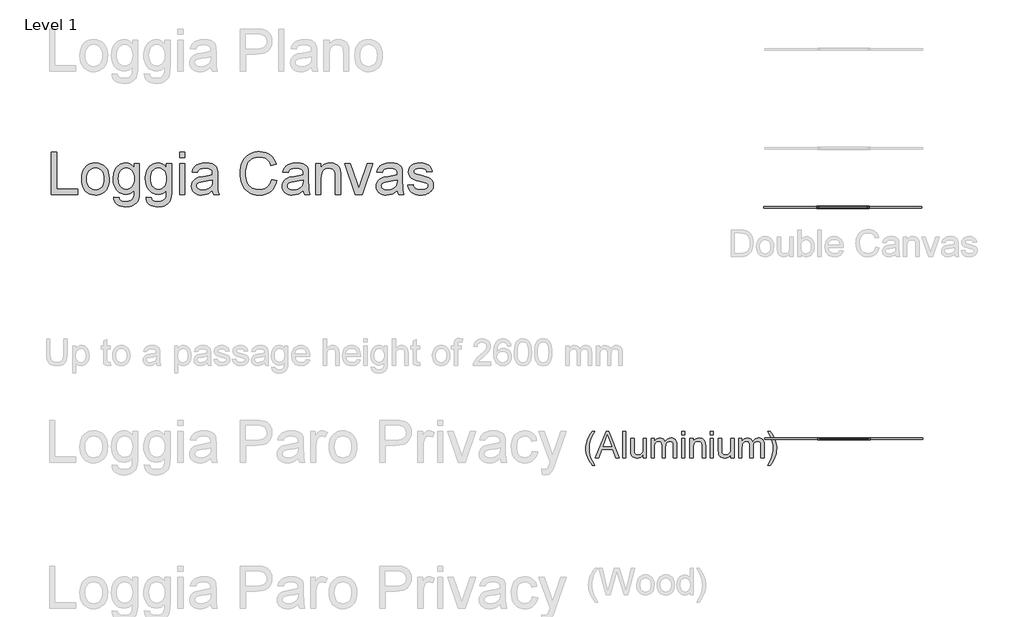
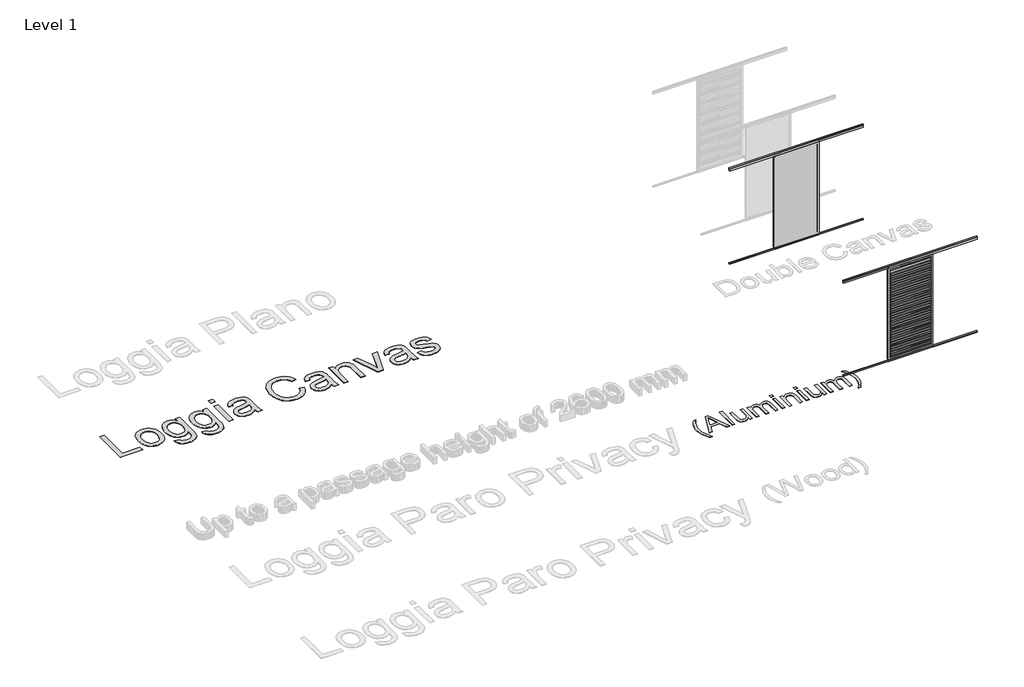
# One storey, part 13 of 47: 4 proxies.
"""IFC4 building model written with IfcOpenShell, lengths in millimetres."""

from ifc_helpers import new_model, si_unit, origin, origin_with_axes, place, context, project, spatial, polyline, outline, extrude, transform, mapped, element, save
from components import generic_models_4c16ce6f, generic_models_3da02b87

model = new_model("IFC4")

# Units and contexts
model_context = context("Model", 3, world=origin())
ifc_project = project(units=[si_unit("LENGTHUNIT", "METRE", prefix="MILLI")], contexts=[model_context])

# Site, building, storey
site = spatial("IfcSite", under=ifc_project)
building = spatial("IfcBuilding", under=site)
storey = spatial("IfcBuildingStorey", under=building, Name="Level 1", Elevation=0.0)

# Proxies
placement = place(None, origin())
generic_models_shape = generic_models_4c16ce6f(model_context)
element("IfcBuildingElementProxy", 1, Name="Renson_Algarve_Loggia_Paro_Privacy_Aluminium : Renson_Algarve_Loggia_Paro_Privacy_Aluminium", ObjectType="Renson_Algarve_Loggia_Paro_Privacy_Aluminium : Renson_Algarve_Loggia_Paro_Privacy_Aluminium", at=placement, inside=storey, context=model_context, shape_type="MappedRepresentation", body=[
    mapped(generic_models_shape, transform((188018.5499001, -29457.0157165, 0.0), x_axis=(1.0, 0.0, 0.0), y_axis=(0.0, 1.0, 0.0), z_axis=(0.0, 0.0, 1.0))),
])
generic_models_2_shape = generic_models_3da02b87(model_context)
element("IfcBuildingElementProxy", 2, Name="Renson_Algarve_Loggia_Canvas_Double : Renson_Algarve_Loggia_Canvas_Double", ObjectType="Renson_Algarve_Loggia_Canvas_Double : Renson_Algarve_Loggia_Canvas_Double", at=placement, inside=storey, context=model_context, shape_type="MappedRepresentation", body=[
    mapped(generic_models_2_shape, transform((188000.726301, -25054.770862, 0.0), x_axis=(1.0, 0.0, 0.0), y_axis=(0.0, 1.0, 0.0), z_axis=(0.0, 0.0, 1.0))),
])
element("IfcBuildingElementProxy", 3, Name="500mm Arial", ObjectType="500mm Arial", at=placement, inside=storey, context=model_context, shape_type="SweptSolid", body=[
    extrude(outline(polyline([(183241.3778916, -29959.1094937), (183216.032355, -29926.3143467), (183192.7254977, -29890.8367268), (183152.2278214, -29811.8340683), (183136.2939325, -29769.2670558), (183124.9125833, -29725.9336225), (183118.0837737, -29681.8337683), (183115.8075039, -29636.9674933), (183117.5089581, -29597.5351419), (183122.6133208, -29558.9458535), (183131.120592, -29521.1996279), (183143.0307715, -29484.2964653), (183161.1336314, -29441.9747074), (183183.5591047, -29399.7449201), (183210.3071914, -29357.6071032), (183241.3778916, -29315.5612568), (183288.466787, -29315.5612568), (183229.7282951, -29415.0120229), (183209.6787263, -29462.2235456), (183194.4116235, -29511.3971056), (183182.5474292, -29574.2129563), (183178.5926977, -29637.3353753), (183180.3094804, -29677.5839648), (183185.4598283, -29717.8248901), (183194.0437415, -29758.0581513), (183206.0612201, -29798.2837482), (183240.3968729, -29878.7119494), (183288.466787, -29959.1094937), (183241.3778916, -29959.1094937)])), origin_with_axes(), (0.0, 0.0, 1.0), 5.0),
    extrude(outline(polyline([(183300.6068928, -29817.8428076), (183501.1025802, -29315.5612568), (183554.5680968, -29315.5612568), (183755.0637842, -29817.8428076), (183688.7223977, -29817.8428076), (183631.2101791, -29660.879823), (183424.3378705, -29660.879823), (183366.9482793, -29817.8428076), (183300.6068928, -29817.8428076)]), holes=[polyline([(183447.3918089, -29598.0946291), (183608.2788681, -29598.0946291), (183563.0293827, -29474.6089061), (183527.8353385, -29378.3464507), (183496.5653689, -29463.8177009), (183447.3918089, -29598.0946291)])]), origin_with_axes(), (0.0, 0.0, 1.0), 5.0),
    extrude(outline(polyline([(183814.2927854, -29817.8428076), (183814.2927854, -29315.5612568), (183877.0779793, -29315.5612568), (183877.0779793, -29817.8428076), (183814.2927854, -29817.8428076)])), origin_with_axes(), (0.0, 0.0, 1.0), 5.0),
    extrude(outline(polyline([(184206.7002469, -29817.8428076), (184206.7002469, -29754.4444771), (184183.9835337, -29785.614812), (184157.5266869, -29807.8793369), (184127.3297065, -29821.2380518), (184093.3925924, -29825.6909568), (184062.8124016, -29822.5639599), (184034.3475322, -29813.182969), (184010.4658593, -29799.0808258), (183993.6352581, -29781.7903721), (183982.3075583, -29760.7904415), (183974.93459, -29735.559868), (183971.25577, -29677.1892581), (183971.25577, -29448.9797937), (184034.0409639, -29448.9797937), (184034.0409639, -29647.6360711), (184037.8424111, -29711.6475383), (184046.9934758, -29733.0000224), (184062.6744458, -29749.2328155), (184083.842989, -29759.4875261), (184109.4567729, -29762.905763), (184136.5420848, -29759.410884), (184161.8799572, -29748.9262472), (184182.7725888, -29732.4175426), (184196.5221784, -29710.8504606), (184204.1557298, -29681.3126021), (184206.7002469, -29640.8915679), (184206.7002469, -29448.9797937), (184269.4854408, -29448.9797937), (184269.4854408, -29817.8428076), (184206.7002469, -29817.8428076)])), origin_with_axes(), (0.0, 0.0, 1.0), 5.0),
    extrude(outline(polyline([(184355.8150823, -29817.8428076), (184355.8150823, -29448.9797937), (184418.6002762, -29448.9797937), (184418.6002762, -29509.680323), (184437.4848852, -29481.7979334), (184461.7650969, -29459.9549399), (184490.6131767, -29445.8374684), (184523.2013901, -29441.1316445), (184558.1195228, -29445.9294389), (184586.1092113, -29460.3228219), (184607.0171714, -29483.3614319), (184620.6901188, -29514.0949069), (184643.5754446, -29482.1734796), (184669.6797379, -29459.3724601), (184699.0029986, -29445.6918484), (184731.5452267, -29441.1316445), (184756.6799976, -29443.0285361), (184778.741421, -29448.7192107), (184797.7294969, -29458.2036684), (184813.6442253, -29471.4819091), (184826.2250231, -29488.7072171), (184835.2113073, -29510.0328765), (184840.6030778, -29535.4588873), (184842.4003346, -29564.9852496), (184842.4003346, -29817.8428076), (184779.6151408, -29817.8428076), (184779.6151408, -29591.9632625), (184778.1589412, -29560.6473077), (184773.7903425, -29539.5400782), (184765.6049681, -29525.0853815), (184752.6984414, -29513.7270249), (184736.0977664, -29506.369385), (184716.8299469, -29503.9168384), (184699.0374875, -29505.4880011), (184682.8161908, -29510.2014891), (184668.1660567, -29518.0573026), (184655.0870854, -29529.0554414), (184644.3303691, -29543.5178023), (184636.6470004, -29561.7662821), (184632.0369791, -29583.8008808), (184630.5003054, -29609.6215983), (184630.5003054, -29817.8428076), (184567.7151115, -29817.8428076), (184567.7151115, -29584.9735046), (184564.0822768, -29549.4728921), (184553.1837727, -29524.1503481), (184544.7569758, -29515.2981876), (184534.0079237, -29508.9752158), (184505.5430543, -29503.9168384), (184481.3548132, -29507.28909), (184459.0672956, -29517.4058449), (184440.6731959, -29534.0218483), (184428.165208, -29556.8918457), (184420.9915091, -29588.6216678), (184418.6002762, -29631.8171454), (184418.6002762, -29817.8428076), (184355.8150823, -29817.8428076)])), origin_with_axes(), (0.0, 0.0, 1.0), 5.0),
    extrude(outline(polyline([(184936.5781254, -29817.8428076), (184936.5781254, -29448.9797937), (184999.3633192, -29448.9797937), (184999.3633192, -29817.8428076), (184936.5781254, -29817.8428076)])), origin_with_axes(), (0.0, 0.0, 1.0), 5.0),
    extrude(outline(polyline([(184936.5781254, -29378.3464507), (184936.5781254, -29315.5612568), (184999.3633192, -29315.5612568), (184999.3633192, -29378.3464507), (184936.5781254, -29378.3464507)])), origin_with_axes(), (0.0, 0.0, 1.0), 5.0),
    extrude(outline(polyline([(185093.54111, -29817.8428076), (185093.54111, -29448.9797937), (185156.3263038, -29448.9797937), (185156.3263038, -29500.4832731), (185178.1386404, -29474.5169356), (185204.3349042, -29455.9695517), (185234.915095, -29444.8411213), (185269.879213, -29441.1316445), (185300.8272858, -29444.1206857), (185329.1695279, -29453.0878094), (185352.8059461, -29466.914041), (185369.6365474, -29484.4804063), (185381.0562176, -29505.7409199), (185388.4598428, -29530.6495967), (185391.7707807, -29591.3501259), (185391.7707807, -29817.8428076), (185328.9855869, -29817.8428076), (185328.9855869, -29599.8114118), (185327.1768337, -29567.3458257), (185321.7505743, -29544.2612305), (185311.7411184, -29527.7218691), (185296.1827756, -29514.8919846), (185276.2405058, -29506.6606249), (185253.0792685, -29503.9168384), (185234.0145506, -29505.4573442), (185216.3063974, -29510.0788618), (185199.9548092, -29517.7813911), (185184.9597858, -29528.564932), (185172.4326374, -29543.6557581), (185163.4846743, -29564.2801424), (185158.1158964, -29590.4380851), (185156.3263038, -29622.1295861), (185156.3263038, -29817.8428076), (185093.54111, -29817.8428076)])), origin_with_axes(), (0.0, 0.0, 1.0), 5.0),
    extrude(outline(polyline([(185478.1004223, -29378.3464507), (185478.1004223, -29315.5612568), (185540.8856161, -29315.5612568), (185540.8856161, -29378.3464507), (185478.1004223, -29378.3464507)])), origin_with_axes(), (0.0, 0.0, 1.0), 5.0),
    extrude(outline(polyline([(185478.1004223, -29817.8428076), (185478.1004223, -29448.9797937), (185540.8856161, -29448.9797937), (185540.8856161, -29817.8428076), (185478.1004223, -29817.8428076)])), origin_with_axes(), (0.0, 0.0, 1.0), 5.0),
    extrude(outline(polyline([(185870.5078838, -29817.8428076), (185870.5078838, -29754.4444771), (185847.7911706, -29785.614812), (185821.3343238, -29807.8793369), (185791.1373433, -29821.2380518), (185757.2002293, -29825.6909568), (185726.6200384, -29822.5639599), (185698.155169, -29813.182969), (185674.2734962, -29799.0808258), (185657.4428949, -29781.7903721), (185646.1151951, -29760.7904415), (185638.7422268, -29735.559868), (185635.0634069, -29677.1892581), (185635.0634069, -29448.9797937), (185697.8486007, -29448.9797937), (185697.8486007, -29647.6360711), (185701.650048, -29711.6475383), (185710.8011126, -29733.0000224), (185726.4820827, -29749.2328155), (185747.6506258, -29759.4875261), (185773.2644097, -29762.905763), (185800.3497216, -29759.410884), (185825.687594, -29748.9262472), (185846.5802257, -29732.4175426), (185860.3298153, -29710.8504606), (185867.9633667, -29681.3126021), (185870.5078838, -29640.8915679), (185870.5078838, -29448.9797937), (185933.2930776, -29448.9797937), (185933.2930776, -29817.8428076), (185870.5078838, -29817.8428076)])), origin_with_axes(), (0.0, 0.0, 1.0), 5.0),
    extrude(outline(polyline([(186019.6227192, -29817.8428076), (186019.6227192, -29448.9797937), (186082.407913, -29448.9797937), (186082.407913, -29509.680323), (186101.2925221, -29481.7979334), (186125.5727338, -29459.9549399), (186154.4208136, -29445.8374684), (186187.009027, -29441.1316445), (186221.9271597, -29445.9294389), (186249.9168481, -29460.3228219), (186270.8248082, -29483.3614319), (186284.4977557, -29514.0949069), (186307.3830815, -29482.1734796), (186333.4873747, -29459.3724601), (186362.8106354, -29445.6918484), (186395.3528636, -29441.1316445), (186420.4876345, -29443.0285361), (186442.5490579, -29448.7192107), (186461.5371338, -29458.2036684), (186477.4518622, -29471.4819091), (186490.03266, -29488.7072171), (186499.0189441, -29510.0328765), (186504.4107146, -29535.4588873), (186506.2079715, -29564.9852496), (186506.2079715, -29817.8428076), (186443.4227776, -29817.8428076), (186443.4227776, -29591.9632625), (186441.966578, -29560.6473077), (186437.5979794, -29539.5400782), (186429.412605, -29525.0853815), (186416.5060783, -29513.7270249), (186399.9054033, -29506.369385), (186380.6375838, -29503.9168384), (186362.8451244, -29505.4880011), (186346.6238276, -29510.2014891), (186331.9736936, -29518.0573026), (186318.8947222, -29529.0554414), (186308.138006, -29543.5178023), (186300.4546372, -29561.7662821), (186295.844616, -29583.8008808), (186294.3079422, -29609.6215983), (186294.3079422, -29817.8428076), (186231.5227484, -29817.8428076), (186231.5227484, -29584.9735046), (186227.8899137, -29549.4728921), (186216.9914096, -29524.1503481), (186208.5646126, -29515.2981876), (186197.8155606, -29508.9752158), (186169.3506912, -29503.9168384), (186145.16245, -29507.28909), (186122.8749325, -29517.4058449), (186104.4808327, -29534.0218483), (186091.9728449, -29556.8918457), (186084.799146, -29588.6216678), (186082.407913, -29631.8171454), (186082.407913, -29817.8428076), (186019.6227192, -29817.8428076)])), origin_with_axes(), (0.0, 0.0, 1.0), 5.0),
    extrude(outline(polyline([(186616.0820607, -29959.1094937), (186568.9931653, -29959.1094937), (186617.0630793, -29878.7119494), (186651.3987322, -29798.2837482), (186663.4162107, -29758.0581513), (186672.0001239, -29717.8248901), (186677.1504719, -29677.5839648), (186678.8672545, -29637.3353753), (186674.9125231, -29574.6728088), (186663.0483287, -29512.5007516), (186648.0571374, -29463.2352211), (186628.0995392, -29415.9930415), (186568.9931653, -29315.5612568), (186616.0820607, -29315.5612568), (186647.1527609, -29357.6071032), (186673.9008476, -29399.7449201), (186696.3263209, -29441.9747074), (186714.4291807, -29484.2964653), (186726.3393603, -29521.1996279), (186734.8466315, -29558.9458535), (186739.9509941, -29597.5351419), (186741.6524484, -29636.9674933), (186739.3646822, -29681.8337683), (186732.5013837, -29725.9336225), (186721.0625529, -29769.2670558), (186705.0481898, -29811.8340683), (186664.5045283, -29890.8367268), (186616.0820607, -29959.1094937)])), origin_with_axes(), (0.0, 0.0, 1.0), 5.0),
])
element("IfcBuildingElementProxy", 4, Name="800mm Arial", ObjectType="800mm Arial", at=placement, inside=storey, context=model_context, shape_type="SweptSolid", body=[
    extrude(outline(polyline([(172965.2163189, -24810.5705655), (172965.2163189, -24011.1818671), (173065.1399062, -24011.1818671), (173065.1399062, -24710.6469782), (173464.8342553, -24710.6469782), (173464.8342553, -24810.5705655), (172965.2163189, -24810.5705655)])), origin_with_axes(), (0.0, 0.0, 1.0), 5.0),
    extrude(outline(polyline([(173539.7769458, -24517.0450278), (173545.1805285, -24441.0167417), (173551.9350068, -24406.9455064), (173561.3912764, -24375.5028761), (173573.5493374, -24346.6888509), (173588.4091898, -24320.5034309), (173605.9708334, -24296.9466159), (173626.2342684, -24276.0184061), (173664.3154988, -24247.5855592), (173706.3487852, -24227.2763828), (173752.3341275, -24215.090877), (173802.2715257, -24211.0290417), (173857.3990468, -24215.9752105), (173907.2449622, -24230.8137168), (173951.8092721, -24255.5445608), (173991.0919763, -24290.1677422), (174023.15364, -24333.5122817), (174046.0548284, -24384.4071997), (174059.7955414, -24442.8524961), (174064.3757791, -24508.848171), (174062.3509603, -24562.335101), (174056.2765039, -24609.7963654), (174046.15241, -24651.2319643), (174031.9786785, -24686.6418977), (174013.9321761, -24717.2276392), (173992.1897696, -24744.1906629), (173966.7514589, -24767.5309686), (173937.617244, -24787.2485563), (173905.9215114, -24802.9165065), (173872.7986475, -24814.1078995), (173838.2486522, -24820.8227353), (173802.2715257, -24823.0610139), (173746.3389562, -24818.1331417), (173696.029528, -24803.349525), (173651.3432411, -24778.7101639), (173612.2800956, -24744.2150583), (173580.5599675, -24700.449698), (173557.9027332, -24647.9995729), (173544.3083927, -24586.8646828), (173539.7769458, -24517.0450278)]), holes=[polyline([(173639.7005331, -24516.8498646), (173642.5913888, -24565.3174395), (173651.263956, -24607.2836385), (173665.7182347, -24642.7484615), (173685.9542249, -24671.7119085), (173710.5691906, -24694.2105727), (173738.160396, -24710.2810471), (173768.727841, -24719.9233317), (173802.2715257, -24723.1374266), (173835.6444425, -24719.9050352), (173866.0899105, -24710.2078609), (173893.6079297, -24694.0459037), (173918.1985, -24671.4191636), (173938.4344902, -24642.1690706), (173952.8887688, -24606.1370544), (173961.5613361, -24563.323115), (173964.4521918, -24513.7272525), (173961.5430395, -24466.7965881), (173952.8155826, -24425.9281825), (173938.2698212, -24391.1220355), (173917.9057551, -24362.3781471), (173893.223702, -24339.8794829), (173865.7239794, -24323.8090085), (173835.4065873, -24314.1667239), (173802.2715257, -24310.952629), (173768.727841, -24314.1545262), (173738.160396, -24323.7602177), (173710.5691906, -24339.7697036), (173685.9542249, -24362.1829838), (173665.7182347, -24391.0610469), (173651.263956, -24426.4648814), (173642.5913888, -24468.3944873), (173639.7005331, -24516.8498646)])]), origin_with_axes(), (0.0, 0.0, 1.0), 5.0),
    extrude(outline(polyline([(174151.808918, -24860.5323591), (174251.7325053, -24873.0228075), (174255.9529107, -24889.8556384), (174262.7592292, -24904.2489286), (174272.151461, -24916.202678), (174284.1296058, -24925.7168868), (174303.5117567, -24935.4506542), (174326.1384968, -24942.4033452), (174381.1257443, -24947.965498), (174412.3274699, -24946.3919943), (174439.7723028, -24941.671483), (174463.4602431, -24933.8039642), (174483.3912906, -24922.7894379), (174499.9801674, -24908.9328467), (174513.6415954, -24892.5391332), (174524.3755745, -24873.6082973), (174532.1821047, -24852.1403391), (174537.5978851, -24809.1556319), (174539.0128187, -24735.627875), (174505.7618789, -24768.4153021), (174468.6564648, -24791.8348929), (174427.6965763, -24805.8866473), (174382.8822136, -24810.5705655), (174328.0962282, -24805.118192), (174279.8604096, -24788.7610716), (174258.1988128, -24776.4932313), (174238.1747578, -24761.4992042), (174203.0392728, -24723.3325899), (174175.1614214, -24677.5424108), (174155.2486704, -24627.4098493), (174143.3010198, -24572.9349054), (174139.3184696, -24514.117579), (174141.1054331, -24472.9686261), (174146.4663238, -24433.4419678), (174155.4011417, -24395.5376041), (174167.9098866, -24359.255535), (174183.8034943, -24325.8033331), (174202.8929003, -24296.388571), (174225.1781047, -24271.0112488), (174250.6591073, -24249.6713665), (174278.9272853, -24232.7653494), (174309.5740154, -24220.6896229), (174342.5992977, -24213.444187), (174378.0031322, -24211.0290417), (174424.7325344, -24216.4936129), (174467.1439495, -24232.8873264), (174505.2373777, -24260.2101823), (174539.0128187, -24298.4621806), (174539.0128187, -24223.5194901), (174638.936406, -24223.5194901), (174638.936406, -24730.3584671), (174637.2287275, -24793.8658105), (174632.105692, -24847.3832347), (174623.5672996, -24890.9107398), (174611.6135501, -24924.4483256), (174595.9577976, -24951.4967332), (174576.3133961, -24975.5567034), (174552.6803455, -24996.6282362), (174525.0586459, -25014.7113317), (174493.7288444, -25029.2265989), (174458.9714882, -25039.5946469), (174420.7865773, -25045.8154757), (174379.1741117, -25047.8890853), (174330.2186286, -25044.9677353), (174286.2032154, -25036.2036853), (174247.1278722, -25021.5969354), (174212.9925989, -25001.1474854), (174185.41969, -24974.83094), (174166.0314403, -24942.6229039), (174154.8278496, -24904.5233769), (174151.808918, -24860.5323591)]), holes=[polyline([(174239.2420568, -24507.286865), (174241.9072551, -24556.6936631), (174249.9028497, -24598.9404093), (174263.2288408, -24634.0271035), (174281.8852284, -24661.9537457), (174304.5668581, -24683.2570349), (174329.9685757, -24698.4736701), (174358.0903812, -24707.6036512), (174388.9322745, -24710.6469782), (174419.4692253, -24707.6219477), (174447.456856, -24698.5468563), (174472.8951668, -24683.4217039), (174495.7841574, -24662.2464906), (174514.6966967, -24634.5942967), (174528.2056534, -24600.0382026), (174536.3110274, -24558.5782083), (174539.0128187, -24510.2143138), (174536.2317423, -24463.8691393), (174527.8885131, -24423.5862234), (174513.9831311, -24389.3655661), (174494.5155963, -24361.2071676), (174471.1325986, -24339.2208069), (174445.4808281, -24323.5162637), (174417.5602847, -24314.0935377), (174387.3709685, -24310.952629), (174357.6878569, -24314.0447469), (174330.3101114, -24323.3211004), (174305.2377318, -24338.7816896), (174282.4707181, -24360.4265145), (174263.5581788, -24388.1579935), (174250.0492222, -24421.8785449), (174241.9438482, -24461.5881687), (174239.2420568, -24507.286865)])]), origin_with_axes(), (0.0, 0.0, 1.0), 5.0),
    extrude(outline(polyline([(174763.8408901, -24860.5323591), (174863.7644774, -24873.0228075), (174867.9848828, -24889.8556384), (174874.7912014, -24904.2489286), (174884.1834331, -24916.202678), (174896.161578, -24925.7168868), (174915.5437289, -24935.4506542), (174938.1704689, -24942.4033452), (174993.1577164, -24947.965498), (175024.3594421, -24946.3919943), (175051.804275, -24941.671483), (175075.4922152, -24933.8039642), (175095.4232628, -24922.7894379), (175112.0121396, -24908.9328467), (175125.6735676, -24892.5391332), (175136.4075467, -24873.6082973), (175144.2140769, -24852.1403391), (175149.6298573, -24809.1556319), (175151.0447909, -24735.627875), (175117.7938511, -24768.4153021), (175080.6884369, -24791.8348929), (175039.7285485, -24805.8866473), (174994.9141857, -24810.5705655), (174940.1282004, -24805.118192), (174891.8923818, -24788.7610716), (174870.230785, -24776.4932313), (174850.20673, -24761.4992042), (174815.0712449, -24723.3325899), (174787.1933935, -24677.5424108), (174767.2806425, -24627.4098493), (174755.3329919, -24572.9349054), (174751.3504417, -24514.117579), (174753.1374053, -24472.9686261), (174758.498296, -24433.4419678), (174767.4331138, -24395.5376041), (174779.9418588, -24359.255535), (174795.8354665, -24325.8033331), (174814.9248725, -24296.388571), (174837.2100768, -24271.0112488), (174862.6910795, -24249.6713665), (174890.9592574, -24232.7653494), (174921.6059875, -24220.6896229), (174954.6312698, -24213.444187), (174990.0351043, -24211.0290417), (175036.7645065, -24216.4936129), (175079.1759217, -24232.8873264), (175117.2693498, -24260.2101823), (175151.0447909, -24298.4621806), (175151.0447909, -24223.5194901), (175250.9683782, -24223.5194901), (175250.9683782, -24730.3584671), (175249.2606997, -24793.8658105), (175244.1376642, -24847.3832347), (175235.5992717, -24890.9107398), (175223.6455223, -24924.4483256), (175207.9897698, -24951.4967332), (175188.3453683, -24975.5567034), (175164.7123177, -24996.6282362), (175137.0906181, -25014.7113317), (175105.7608165, -25029.2265989), (175071.0034603, -25039.5946469), (175032.8185495, -25045.8154757), (174991.2060839, -25047.8890853), (174942.2506008, -25044.9677353), (174898.2351876, -25036.2036853), (174859.1598443, -25021.5969354), (174825.024571, -25001.1474854), (174797.4516622, -24974.83094), (174778.0634124, -24942.6229039), (174766.8598218, -24904.5233769), (174763.8408901, -24860.5323591)]), holes=[polyline([(174851.274029, -24507.286865), (174853.9392272, -24556.6936631), (174861.9348219, -24598.9404093), (174875.260813, -24634.0271035), (174893.9172005, -24661.9537457), (174916.5988303, -24683.2570349), (174942.0005478, -24698.4736701), (174970.1223533, -24707.6036512), (175000.9642467, -24710.6469782), (175031.5011975, -24707.6219477), (175059.4888282, -24698.5468563), (175084.9271389, -24683.4217039), (175107.8161296, -24662.2464906), (175126.7286689, -24634.5942967), (175140.2376256, -24600.0382026), (175148.3429996, -24558.5782083), (175151.0447909, -24510.2143138), (175148.2637145, -24463.8691393), (175139.9204853, -24423.5862234), (175126.0151033, -24389.3655661), (175106.5475684, -24361.2071676), (175083.1645708, -24339.2208069), (175057.5128002, -24323.5162637), (175029.5922569, -24314.0935377), (174999.4029406, -24310.952629), (174969.7198291, -24314.0447469), (174942.3420835, -24323.3211004), (174917.2697039, -24338.7816896), (174894.5026903, -24360.4265145), (174875.590151, -24388.1579935), (174862.0811943, -24421.8785449), (174853.9758203, -24461.5881687), (174851.274029, -24507.286865)])]), origin_with_axes(), (0.0, 0.0, 1.0), 5.0),
    extrude(outline(polyline([(175400.8537591, -24810.5705655), (175400.8537591, -24223.5194901), (175500.7773464, -24223.5194901), (175500.7773464, -24810.5705655), (175400.8537591, -24810.5705655)])), origin_with_axes(), (0.0, 0.0, 1.0), 5.0),
    extrude(outline(polyline([(175400.8537591, -24111.1054544), (175400.8537591, -24011.1818671), (175500.7773464, -24011.1818671), (175500.7773464, -24111.1054544), (175400.8537591, -24111.1054544)])), origin_with_axes(), (0.0, 0.0, 1.0), 5.0),
    extrude(outline(polyline([(176025.3761797, -24735.627875), (175977.6343681, -24776.5633681), (175953.2328622, -24791.7251135), (175928.4776229, -24803.349525), (175876.7837553, -24818.1331417), (175821.4305767, -24823.0610139), (175776.9394531, -24820.0969719), (175737.9250984, -24811.2048461), (175704.3875125, -24796.3846363), (175676.3266956, -24775.6363426), (175654.1695671, -24750.277317), (175638.3430468, -24721.6249114), (175628.8471346, -24689.6791258), (175625.6818305, -24654.4399603), (175630.4633303, -24613.0165592), (175644.8078297, -24575.3988415), (175666.9344639, -24543.1969042), (175695.0623682, -24518.0208441), (175728.1181448, -24498.9924266), (175765.0283956, -24485.233417), (175851.4857182, -24470.2058463), (175953.653683, -24454.3976225), (176024.7906899, -24435.8571131), (176025.3761797, -24413.6085019), (176023.6563035, -24389.3838627), (176018.4966749, -24369.0136978), (176009.8972939, -24352.4980072), (175997.8581605, -24339.836791), (175977.0488783, -24327.1999701), (175951.7020504, -24318.1736695), (175921.8176768, -24312.7578891), (175887.3957574, -24310.952629), (175827.8709642, -24315.7585242), (175804.8416999, -24321.7658932), (175786.3011906, -24330.1762098), (175771.0662589, -24341.6481499), (175757.9537276, -24356.8403897), (175746.9635967, -24375.752929), (175738.0958662, -24398.3857679), (175638.1722789, -24385.8953195), (175655.5174134, -24331.2496077), (175667.3918777, -24308.3179251), (175681.4009402, -24288.3136913), (175698.1483872, -24270.8343821), (175718.2380049, -24255.4774734), (175741.6697934, -24242.2429651), (175768.4437526, -24231.1308571), (175829.8469922, -24216.0544956), (175900.2765323, -24211.0290417), (175967.8274145, -24215.4690058), (176021.3753329, -24228.7888981), (176061.7497316, -24248.8175273), (176089.7800543, -24273.3837022), (176108.3693545, -24303.7559839), (176120.4206856, -24341.2029338), (176124.0799966, -24375.7468302), (176125.299767, -24428.6360726), (176125.299767, -24552.955067), (176126.5683282, -24661.2462789), (176130.3740117, -24726.5527836), (176137.887797, -24769.4643046), (176150.2806638, -24810.5705655), (176050.3570765, -24810.5705655), (176034.3536895, -24775.8315058), (176025.3761797, -24735.627875)]), holes=[polyline([(176025.3761797, -24535.7807004), (175958.2400195, -24552.418368), (175864.1713299, -24566.4213317), (175812.3310899, -24574.0814895), (175778.2019154, -24582.619882), (175755.8313272, -24593.6953968), (175739.2668458, -24608.9669216), (175729.0207748, -24627.2634769), (175725.6054178, -24647.4140831), (175727.4655676, -24662.9417597), (175733.046017, -24677.1276889), (175742.3467659, -24689.9718707), (175755.3678144, -24701.4743051), (175771.9871855, -24710.9519208), (175792.082902, -24717.7216462), (175842.7033717, -24723.1374266), (175896.3732672, -24717.1605519), (175920.8662559, -24709.6894585), (175943.7979385, -24699.2299277), (175982.2451, -24672.8097019), (176008.9824662, -24641.3640222), (176020.838634, -24608.9669216), (176024.7906899, -24564.0793726), (176025.3761797, -24535.7807004)])]), origin_with_axes(), (0.0, 0.0, 1.0), 5.0),
    extrude(outline(polyline([(177149.5165367, -24526.4128641), (177249.440124, -24552.174414), (177229.6676466, -24614.3156146), (177203.3328047, -24668.6136918), (177170.4355983, -24715.0686457), (177130.9760274, -24753.6804762), (177085.8445243, -24784.0344615), (177035.9315215, -24805.7158795), (176981.2370189, -24818.7247303), (176921.7610165, -24823.0610139), (176860.8273885, -24819.7798316), (176805.8584376, -24809.9362849), (176756.8541637, -24793.5303737), (176713.8145668, -24770.5620979), (176676.1480583, -24741.3729934), (176643.2630496, -24706.3045957), (176615.1595406, -24665.356905), (176591.8375315, -24618.5299212), (176573.5226796, -24567.848463), (176560.4406426, -24515.3373493), (176552.5914204, -24460.9965801), (176549.975013, -24404.8261554), (176552.9329561, -24344.5573022), (176561.8067854, -24288.2649005), (176576.5965009, -24235.94895), (176597.3021027, -24187.609451), (176623.4600779, -24144.0453528), (176654.6069138, -24106.0556052), (176690.7426105, -24073.6402081), (176731.867168, -24046.7991614), (176776.5839491, -24025.752024), (176823.4963169, -24010.7183544), (176872.6042713, -24001.6981527), (176923.9078123, -23998.6914187), (176981.0601522, -24002.5824862), (177033.4675854, -24014.2556884), (177081.1301119, -24033.7110256), (177124.0477318, -24060.9484975), (177161.5129782, -24095.2484399), (177192.8183843, -24135.891188), (177217.9639501, -24182.876742), (177236.9496756, -24236.2051018), (177137.0260883, -24260.0150191), (177121.2910508, -24220.7201172), (177102.3846103, -24187.1459382), (177080.3067669, -24159.2924822), (177055.0575206, -24137.1597492), (177026.490499, -24120.296424), (176994.4593295, -24108.2511918), (176958.9640122, -24101.0240525), (176920.0045472, -24098.615006), (176875.1779867, -24101.2863031), (176834.1815052, -24109.3001943), (176797.0151025, -24122.6566797), (176763.6787788, -24141.3557592), (176734.5933547, -24164.5557913), (176710.1796511, -24191.4151345), (176690.437668, -24221.9337887), (176675.3674052, -24256.111754), (176664.2248031, -24292.399922), (176656.2658015, -24329.2491843), (176651.4904006, -24366.659541), (176649.8986003, -24404.6309921), (176651.7831455, -24452.3484083), (176657.4367811, -24496.9432124), (176666.859507, -24538.4154044), (176680.0513234, -24576.7649843), (176697.22569, -24611.2295956), (176718.5960665, -24641.0468819), (176744.1624531, -24666.2168431), (176773.9248497, -24686.7394793), (176806.4378285, -24702.6635812), (176840.2559615, -24714.0379398), (176875.3792488, -24720.8625549), (176911.8076904, -24723.1374266), (176955.2498115, -24720.0392099), (176995.2155871, -24710.7445598), (177031.7050172, -24695.2534763), (177064.7181018, -24673.5659595), (177093.4741879, -24645.7795908), (177117.1926224, -24611.9919521), (177135.8734054, -24572.2030432), (177149.5165367, -24526.4128641)])), origin_with_axes(), (0.0, 0.0, 1.0), 5.0),
    extrude(outline(polyline([(177749.0580605, -24735.627875), (177701.3162489, -24776.5633681), (177676.914743, -24791.7251135), (177652.1595037, -24803.349525), (177600.4656361, -24818.1331417), (177545.1124575, -24823.0610139), (177500.6213339, -24820.0969719), (177461.6069792, -24811.2048461), (177428.0693933, -24796.3846363), (177400.0085764, -24775.6363426), (177377.8514479, -24750.277317), (177362.0249276, -24721.6249114), (177352.5290154, -24689.6791258), (177349.3637113, -24654.4399603), (177354.1452111, -24613.0165592), (177368.4897105, -24575.3988415), (177390.6163447, -24543.1969042), (177418.744249, -24518.0208441), (177451.8000256, -24498.9924266), (177488.7102764, -24485.233417), (177575.167599, -24470.2058463), (177677.3355638, -24454.3976225), (177748.4725707, -24435.8571131), (177749.0580605, -24413.6085019), (177747.3381843, -24389.3838627), (177742.1785557, -24369.0136978), (177733.5791747, -24352.4980072), (177721.5400413, -24339.836791), (177700.7307591, -24327.1999701), (177675.3839312, -24318.1736695), (177645.4995576, -24312.7578891), (177611.0776382, -24310.952629), (177551.552845, -24315.7585242), (177528.5235807, -24321.7658932), (177509.9830714, -24330.1762098), (177494.7481397, -24341.6481499), (177481.6356084, -24356.8403897), (177470.6454775, -24375.752929), (177461.777747, -24398.3857679), (177361.8541597, -24385.8953195), (177379.1992942, -24331.2496077), (177391.0737585, -24308.3179251), (177405.082821, -24288.3136913), (177421.830268, -24270.8343821), (177441.9198857, -24255.4774734), (177465.3516742, -24242.2429651), (177492.1256334, -24231.1308571), (177553.528873, -24216.0544956), (177623.9584131, -24211.0290417), (177691.5092953, -24215.4690058), (177745.0572137, -24228.7888981), (177785.4316124, -24248.8175273), (177813.4619351, -24273.3837022), (177832.0512353, -24303.7559839), (177844.1025664, -24341.2029338), (177847.7618774, -24375.7468302), (177848.9816478, -24428.6360726), (177848.9816478, -24552.955067), (177850.250209, -24661.2462789), (177854.0558925, -24726.5527836), (177861.5696778, -24769.4643046), (177873.9625446, -24810.5705655), (177774.0389573, -24810.5705655), (177758.0355703, -24775.8315058), (177749.0580605, -24735.627875)]), holes=[polyline([(177749.0580605, -24535.7807004), (177681.9219003, -24552.418368), (177587.8532107, -24566.4213317), (177536.0129707, -24574.0814895), (177501.8837962, -24582.619882), (177479.513208, -24593.6953968), (177462.9487266, -24608.9669216), (177452.7026556, -24627.2634769), (177449.2872986, -24647.4140831), (177451.1474484, -24662.9417597), (177456.7278978, -24677.1276889), (177466.0286467, -24689.9718707), (177479.0496952, -24701.4743051), (177495.6690663, -24710.9519208), (177515.7647828, -24717.7216462), (177566.3852525, -24723.1374266), (177620.055148, -24717.1605519), (177644.5481367, -24709.6894585), (177667.4798193, -24699.2299277), (177705.9269808, -24672.8097019), (177732.664347, -24641.3640222), (177744.5205148, -24608.9669216), (177748.4725707, -24564.0793726), (177749.0580605, -24535.7807004)])]), origin_with_axes(), (0.0, 0.0, 1.0), 5.0),
    extrude(outline(polyline([(177986.3765803, -24810.5705655), (177986.3765803, -24223.5194901), (178086.3001676, -24223.5194901), (178086.3001676, -24305.4880578), (178102.7853639, -24283.3492259), (178121.0148319, -24264.1622383), (178140.9885714, -24247.9270949), (178162.7065825, -24234.6437958), (178186.1688652, -24224.3123409), (178211.3754196, -24216.9327302), (178267.0213431, -24211.0290417), (178316.2756699, -24215.7861461), (178361.3827776, -24230.0574592), (178399.0004952, -24252.0621164), (178425.7866522, -24280.0192529), (178443.9612304, -24313.8556825), (178455.744212, -24353.4982189), (178459.696268, -24391.4086815), (178461.01362, -24450.1040309), (178461.01362, -24810.5705655), (178361.0900327, -24810.5705655), (178361.0900327, -24463.5702956), (178358.2113746, -24411.9008234), (178349.5754005, -24375.1613404), (178333.6451997, -24348.8386962), (178308.8838616, -24328.4197405), (178277.145437, -24315.3194069), (178240.2839769, -24310.952629), (178209.9421894, -24313.4043674), (178181.7593954, -24320.7595827), (178155.7355949, -24333.0182747), (178131.870788, -24350.1804436), (178111.9336416, -24374.1977218), (178097.6928227, -24407.021742), (178089.1483314, -24448.6525041), (178086.3001676, -24499.0900082), (178086.3001676, -24810.5705655), (177986.3765803, -24810.5705655)])), origin_with_axes(), (0.0, 0.0, 1.0), 5.0),
    extrude(outline(polyline([(178742.4390357, -24810.5705655), (178535.9563104, -24223.5194901), (178641.7347954, -24223.5194901), (178766.8344428, -24575.2036782), (178804.5009513, -24693.4726116), (178841.3868067, -24581.8392289), (178967.2671071, -24223.5194901), (179073.0455921, -24223.5194901), (178869.0999892, -24810.5705655), (178742.4390357, -24810.5705655)])), origin_with_axes(), (0.0, 0.0, 1.0), 5.0),
    extrude(outline(polyline([(179535.1921834, -24735.627875), (179487.4503718, -24776.5633681), (179463.0488658, -24791.7251135), (179438.2936265, -24803.349525), (179386.599759, -24818.1331417), (179331.2465804, -24823.0610139), (179286.7554568, -24820.0969719), (179247.741102, -24811.2048461), (179214.2035162, -24796.3846363), (179186.1426992, -24775.6363426), (179163.9855708, -24750.277317), (179148.1590504, -24721.6249114), (179138.6631383, -24689.6791258), (179135.4978342, -24654.4399603), (179140.279334, -24613.0165592), (179154.6238333, -24575.3988415), (179176.7504675, -24543.1969042), (179204.8783719, -24518.0208441), (179237.9341484, -24498.9924266), (179274.8443993, -24485.233417), (179361.3017219, -24470.2058463), (179463.4696866, -24454.3976225), (179534.6066936, -24435.8571131), (179535.1921834, -24413.6085019), (179533.4723072, -24389.3838627), (179528.3126786, -24369.0136978), (179519.7132976, -24352.4980072), (179507.6741642, -24339.836791), (179486.864882, -24327.1999701), (179461.5180541, -24318.1736695), (179431.6336804, -24312.7578891), (179397.2117611, -24310.952629), (179337.6869679, -24315.7585242), (179314.6577036, -24321.7658932), (179296.1171942, -24330.1762098), (179280.8822625, -24341.6481499), (179267.7697312, -24356.8403897), (179256.7796004, -24375.752929), (179247.9118699, -24398.3857679), (179147.9882826, -24385.8953195), (179165.333417, -24331.2496077), (179177.2078814, -24308.3179251), (179191.2169439, -24288.3136913), (179207.9643908, -24270.8343821), (179228.0540086, -24255.4774734), (179251.485797, -24242.2429651), (179278.2597563, -24231.1308571), (179339.6629958, -24216.0544956), (179410.092536, -24211.0290417), (179477.6434181, -24215.4690058), (179531.1913366, -24228.7888981), (179571.5657353, -24248.8175273), (179599.596058, -24273.3837022), (179618.1853582, -24303.7559839), (179630.2366892, -24341.2029338), (179633.8960003, -24375.7468302), (179635.1157707, -24428.6360726), (179635.1157707, -24552.955067), (179636.3843318, -24661.2462789), (179640.1900153, -24726.5527836), (179647.7038007, -24769.4643046), (179660.0966675, -24810.5705655), (179560.1730802, -24810.5705655), (179544.1696932, -24775.8315058), (179535.1921834, -24735.627875)]), holes=[polyline([(179535.1921834, -24535.7807004), (179468.0560231, -24552.418368), (179373.9873335, -24566.4213317), (179322.1470936, -24574.0814895), (179288.0179191, -24582.619882), (179265.6473308, -24593.6953968), (179249.0828494, -24608.9669216), (179238.8367785, -24627.2634769), (179235.4214215, -24647.4140831), (179237.2815713, -24662.9417597), (179242.8620206, -24677.1276889), (179252.1627696, -24689.9718707), (179265.1838181, -24701.4743051), (179281.8031891, -24710.9519208), (179301.8989057, -24717.7216462), (179352.5193753, -24723.1374266), (179406.1892709, -24717.1605519), (179430.6822595, -24709.6894585), (179453.6139422, -24699.2299277), (179492.0611037, -24672.8097019), (179518.7984698, -24641.3640222), (179530.6546376, -24608.9669216), (179534.6066936, -24564.0793726), (179535.1921834, -24535.7807004)])]), origin_with_axes(), (0.0, 0.0, 1.0), 5.0),
    extrude(outline(polyline([(179735.0393579, -24635.7042877), (179834.9629452, -24623.2138393), (179841.0008085, -24645.9991495), (179850.7223782, -24665.9545925), (179864.1276544, -24683.0801682), (179881.216637, -24697.3758768), (179902.0381169, -24708.6465548), (179926.6408849, -24716.6970391), (179955.0249411, -24721.5273297), (179987.1902853, -24723.1374266), (180019.3190363, -24721.6615045), (180047.0078234, -24717.2337381), (180070.2566463, -24709.8541275), (180089.0655051, -24699.5226726), (180103.5807723, -24687.202992), (180113.9488203, -24673.8587044), (180120.1696491, -24659.4898096), (180122.2432587, -24644.0963077), (180120.1574514, -24630.6056476), (180113.9000295, -24618.6275028), (180103.470993, -24608.1618732), (180088.8703419, -24599.2087588), (180051.4477874, -24586.5231471), (179986.0193057, -24570.7149233), (179894.8292741, -24544.3434883), (179835.548435, -24521.8265276), (179797.4672046, -24497.2603527), (179782.3603488, -24481.9949267), (179769.8759992, -24464.7412751), (179753.1163546, -24426.3429044), (179747.5298064, -24384.1388502), (179752.0185613, -24345.4233392), (179765.4848259, -24309.6840679), (179786.7088301, -24278.3359698), (179814.4708033, -24252.7939786), (179842.0620087, -24236.7174054), (179877.9964433, -24223.2267453), (179919.5418215, -24214.0784676), (179963.9658577, -24211.0290417), (180029.0040129, -24215.9325185), (180085.5525665, -24230.642949), (180131.0256052, -24253.7210041), (180148.6390891, -24267.8581425), (180162.837216, -24283.7273547), (180183.9148477, -24322.8819831), (180197.1859492, -24373.4048711), (180097.2623619, -24385.8953195), (180092.4991587, -24369.2027622), (180084.6499364, -24354.4496398), (180073.7146952, -24341.6359522), (180059.693435, -24330.7616995), (180042.5251673, -24322.0952312), (180022.1489036, -24315.9048967), (179971.772388, -24310.952629), (179914.3943906, -24315.685338), (179892.8776416, -24321.6012242), (179876.1423923, -24329.8834649), (179854.6256433, -24350.3756068), (179849.2464561, -24361.7926573), (179847.4533936, -24373.9903608), (179850.4296333, -24389.3594673), (179859.3583523, -24403.0696861), (179874.6298771, -24415.3161804), (179896.6345343, -24425.123134), (179982.7015304, -24446.395929), (180070.9885085, -24472.4990145), (180129.3667176, -24493.4302738), (180168.106624, -24515.9228391), (180197.4786941, -24546.7098428), (180208.2797605, -24565.2381544), (180215.994808, -24585.8888665), (180220.6238365, -24608.661979), (180222.166846, -24633.5574919), (180220.355487, -24658.5627841), (180214.9214101, -24682.8362142), (180205.8646152, -24706.377782), (180193.1851024, -24729.1874876), (180177.0902326, -24750.356602), (180157.7873668, -24768.9763965), (180135.2765049, -24785.0468709), (180109.557647, -24798.5680252), (180081.3321611, -24809.2837078), (180051.301415, -24816.9377667), (180019.4654088, -24821.5302021), (179985.8241425, -24823.0610139), (179932.0444676, -24820.1091696), (179885.0711113, -24811.2536369), (179844.9040736, -24796.4944156), (179811.5433545, -24775.8315058), (179784.2936848, -24749.3624892), (179762.4597955, -24717.1849473), (179746.0416865, -24679.2988801), (179735.0393579, -24635.7042877)])), origin_with_axes(), (0.0, 0.0, 1.0), 5.0),
])

save(model, "model.ifc")
